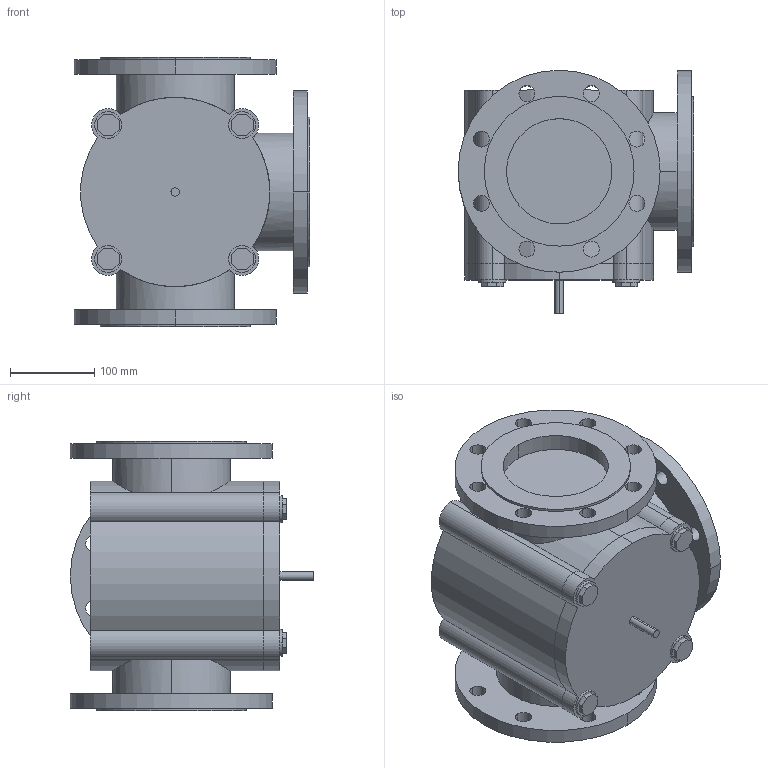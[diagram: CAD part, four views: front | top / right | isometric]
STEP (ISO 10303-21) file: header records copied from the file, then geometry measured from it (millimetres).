
FILE_DESCRIPTION((''),'2;1');
FILE_NAME('KL000055.dwg.stp','2006-10-04T11:31:41',(''),(''),'Mechanical Desktop 2006','Mechanical Desktop 2006',', , ');
FILE_SCHEMA(('AUTOMOTIVE_DESIGN { 1 2 10303 214 0 1 1 1 }'));
Length unit declared in the file: millimetre
Products named in the file (1): Product
Bounding box: 280 x 289 x 320 mm (x, y, z)
Volume: 12781629.8 mm3; surface area: 788903 mm2
Topology: 17 solids, 17 shells, 188 faces, 453 edges, 302 vertices
Faces by surface type: cylinder 111, plane 64, bspline 13
Entity records: 6400 total; most frequent: CARTESIAN_POINT 1713, DIRECTION 995, ORIENTED_EDGE 906, EDGE_CURVE 453, AXIS2_PLACEMENT_3D 390, VERTEX_POINT 302, EDGE_LOOP 245, VECTOR 215
